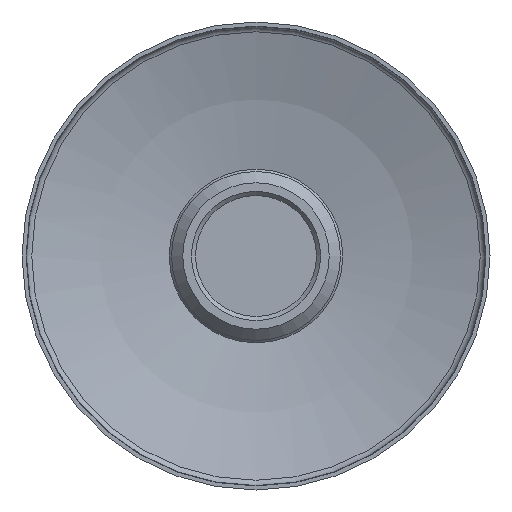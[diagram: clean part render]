
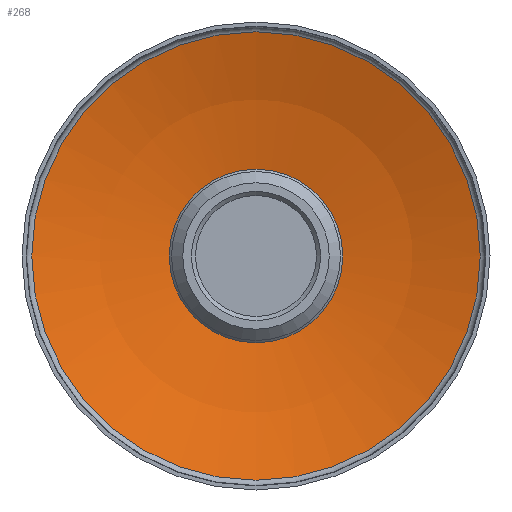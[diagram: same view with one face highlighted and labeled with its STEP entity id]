
A CAD part, front view. The second image highlights one B-rep face of the part: STEP entity #268.
In plain terms, the highlighted spherical face has radius 82.5 mm.
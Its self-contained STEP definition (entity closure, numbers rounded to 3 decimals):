
#268=ADVANCED_FACE('',(#2256,#2258),#2260,.F.);
#2256=FACE_BOUND('',#2257,.T.);
#2257=EDGE_LOOP('',(#3635,#3636));
#2258=FACE_OUTER_BOUND('',#2259,.T.);
#2259=EDGE_LOOP('',(#3637));
#2260=SPHERICAL_SURFACE('',#2261,82.5);
#2261=AXIS2_PLACEMENT_3D('',#2262,#2263,#2264);
#2262=CARTESIAN_POINT('',(0.,-95.836,0.));
#2263=DIRECTION('',(0.,1.,0.));
#2264=DIRECTION('',(0.,0.,-1.));
#3635=ORIENTED_EDGE('',*,*,#4246,.T.);
#3636=ORIENTED_EDGE('',*,*,#4247,.T.);
#3637=ORIENTED_EDGE('',*,*,#4244,.F.);
#4244=EDGE_CURVE('',#5104,#5104,#5105,.T.);
#4246=EDGE_CURVE('',#5108,#5109,#5110,.T.);
#4247=EDGE_CURVE('',#5109,#5108,#5111,.T.);
#5104=VERTEX_POINT('',#10328);
#5105=CIRCLE('',#10329,27.794);
#5108=VERTEX_POINT('',#10338);
#5109=VERTEX_POINT('',#10339);
#5110=CIRCLE('',#10340,10.75);
#5111=CIRCLE('',#10344,10.75);
#10328=CARTESIAN_POINT('',(0.,-18.159,-27.794));
#10329=AXIS2_PLACEMENT_3D('',#10330,#10331,#10332);
#10330=CARTESIAN_POINT('',(0.,-18.159,0.));
#10331=DIRECTION('',(0.,1.,0.));
#10332=DIRECTION('',(0.,0.,-1.));
#10338=CARTESIAN_POINT('',(10.75,-14.039,0.));
#10339=CARTESIAN_POINT('',(0.,-14.039,-10.75));
#10340=AXIS2_PLACEMENT_3D('',#10341,#10342,#10343);
#10341=CARTESIAN_POINT('',(0.,-14.039,0.));
#10342=DIRECTION('',(0.,1.,0.));
#10343=DIRECTION('',(1.,0.,0.));
#10344=AXIS2_PLACEMENT_3D('',#10345,#10346,#10347);
#10345=CARTESIAN_POINT('',(0.,-14.039,0.));
#10346=DIRECTION('',(0.,1.,0.));
#10347=DIRECTION('',(0.,0.,-1.));
